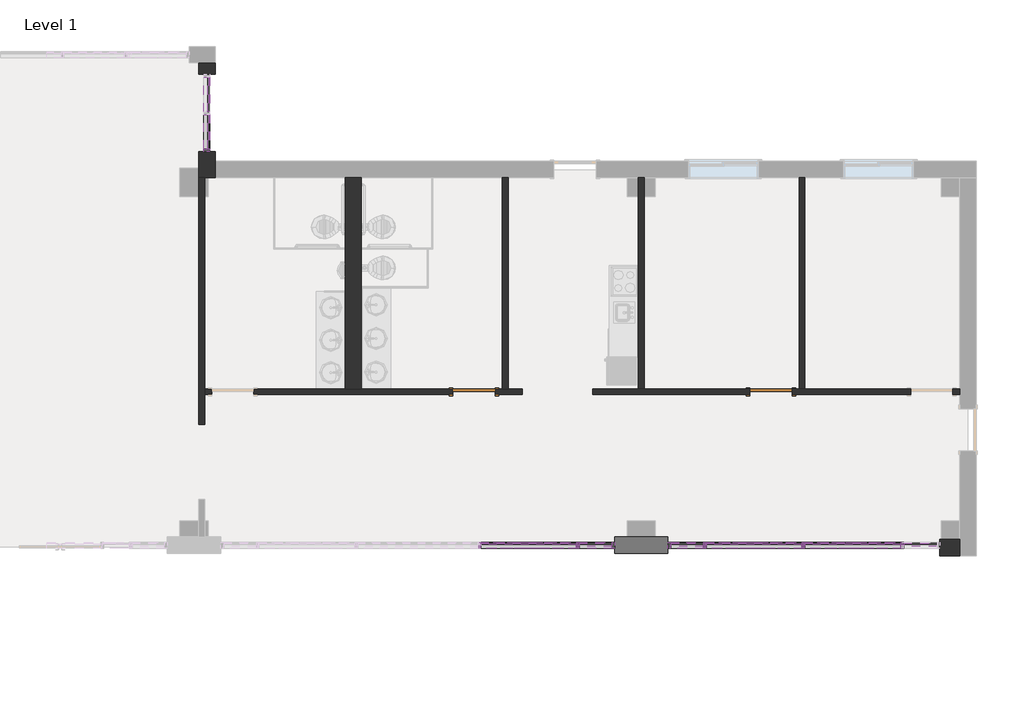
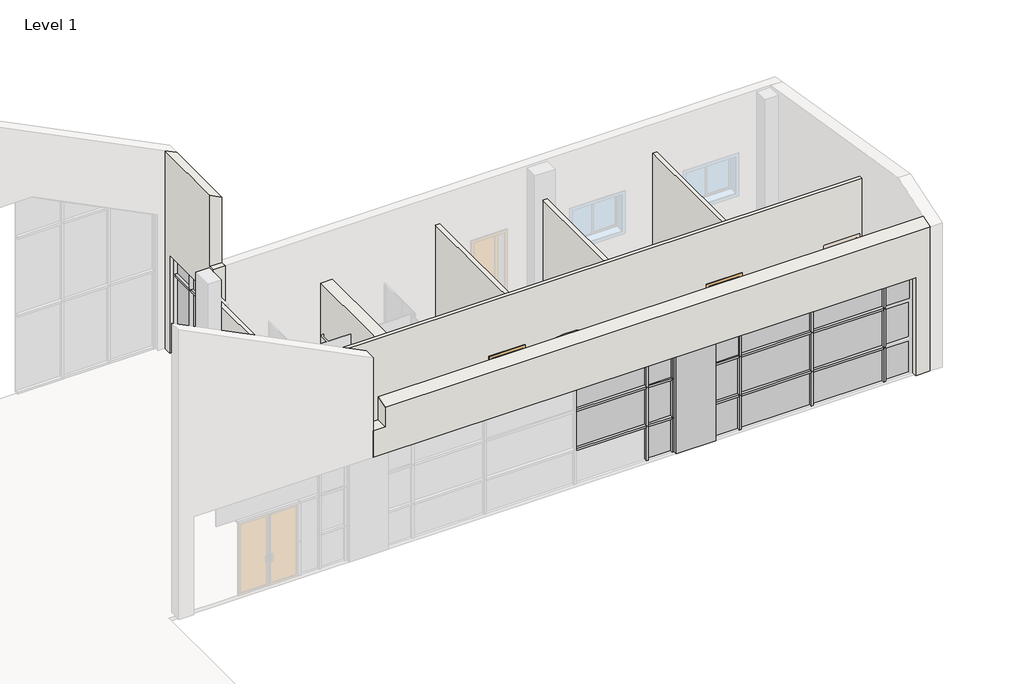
# One storey, part 3 of 4: 40 members, 22 plates, 8 walls, 2 doors.
"""IFC4 building model written with IfcOpenShell, lengths in millimetres."""

from ifc_helpers import new_model, si_unit, point, frame, origin, origin_with_axes, place, context, project, spatial, polyline, ellipse_curve, trimmed, outline, extrude, faceted_brep, transform, mapped, element, save
from ifc_brep_helpers import plane_surface, extruded_surface, advanced_brep
from components import door_88503111, member_ee409385, member_3a0a7659, member_7b995701, member_c7c5a8a0, member_4f1c84db, member_a715cb85, member_2b49869a, member_13dc6413, member_3374d9b6, member_e196a3dc, member_3ca69e07, system_panel_glazed_65d20654, system_panel_glazed_53b4157c, system_panel_glazed_7b5ce646, system_panel_glazed_93fe6fa7, system_panel_glazed_6ce5e085, system_panel_glazed_6c402c5f, system_panel_glazed_28aac04d, system_panel_glazed_49c46af5, system_panel_glazed_ef97d2b3, system_panel_solid_6039f36e, system_panel_solid_fb0cd2a2

model = new_model("IFC4")

# Units and contexts
model_context = context("Model", 3, world=origin())
ifc_project = project(units=[si_unit("LENGTHUNIT", "METRE", prefix="MILLI")], contexts=[model_context])

# Site, building, storey
site = spatial("IfcSite", under=ifc_project)
building = spatial("IfcBuilding", under=site)
storey = spatial("IfcBuildingStorey", under=building, Name="Level 1", Elevation=0.0)

# Doors
placement = place(None, origin())
door_shape = door_88503111(model_context)
element("IfcDoor", 1, ObjectType="Single-Flush : 36\" x 84\"", at=placement, inside=storey, context=model_context, shape_type="MappedRepresentation", body=[
    mapped(door_shape, transform((12714.8233448, 3496.4480424, 0.0), x_axis=(1.0, 0.0, 0.0), y_axis=(0.0, 1.0, 0.0), z_axis=(0.0, 0.0, 1.0))),
])
element("IfcDoor", 2, ObjectType="Single-Flush : 36\" x 84\"", at=placement, inside=storey, context=model_context, shape_type="MappedRepresentation", body=[
    mapped(door_shape, transform((6294.9733448, 3496.4480424, 0.0), x_axis=(1.0, 0.0, 0.0), y_axis=(0.0, 1.0, 0.0), z_axis=(0.0, 0.0, 1.0))),
])

# Members
member_shape = member_ee409385(model_context)
element("IfcMember", 3, ObjectType="Rectangular Mullion : 2.5\" x 5\" Rectangular", at=placement, inside=storey, context=model_context, shape_type="MappedRepresentation", body=[
    mapped(member_shape, transform((518.0608448, 8687.5730424, 0.0), x_axis=(0.0, -1.0, 0.0), y_axis=(-1.0, 0.0, 0.0), z_axis=(0.0, 0.0, -1.0))),
])
member_2_shape = member_3a0a7659(model_context)
element("IfcMember", 4, ObjectType="Rectangular Mullion : 2.5\" x 5\" Rectangular", at=placement, inside=storey, context=model_context, shape_type="MappedRepresentation", body=[
    mapped(member_2_shape, transform((518.0608448, 8751.0730424, 3060.0), x_axis=(0.0, 0.0, 1.0), y_axis=(-1.0, 0.0, 0.0), z_axis=(0.0, -1.0, 0.0))),
])
element("IfcMember", 5, ObjectType="Rectangular Mullion : 2.5\" x 5\" Rectangular", at=placement, inside=storey, context=model_context, shape_type="MappedRepresentation", body=[
    mapped(member_2_shape, transform((518.0608448, 9557.5230424, 3060.0), x_axis=(0.0, 0.0, 1.0), y_axis=(-1.0, 0.0, 0.0), z_axis=(0.0, -1.0, 0.0))),
])
element("IfcMember", 6, ObjectType="Rectangular Mullion : 2.5\" x 5\" Rectangular", at=placement, inside=storey, context=model_context, shape_type="MappedRepresentation", body=[
    mapped(member_2_shape, transform((518.0608448, 9494.0230424, 0.0), x_axis=(0.0, 0.0, -1.0), y_axis=(-1.0, 0.0, 0.0), z_axis=(0.0, 1.0, 0.0))),
])
member_3_shape = member_7b995701(model_context)
element("IfcMember", 7, ObjectType="Rectangular Mullion : 2.5\" x 5\" Rectangular", at=placement, inside=storey, context=model_context, shape_type="MappedRepresentation", body=[
    mapped(member_3_shape, transform((518.0608448, 9557.5230424, 2438.4), x_axis=(0.0, 0.0, 1.0), y_axis=(-1.0, 0.0, 0.0), z_axis=(0.0, -1.0, 0.0))),
])
element("IfcMember", 8, ObjectType="Rectangular Mullion : 2.5\" x 5\" Rectangular", at=placement, inside=storey, context=model_context, shape_type="MappedRepresentation", body=[
    mapped(member_3_shape, transform((518.0608448, 8751.0730424, 2438.4), x_axis=(0.0, 0.0, 1.0), y_axis=(-1.0, 0.0, 0.0), z_axis=(0.0, -1.0, 0.0))),
])
member_4_shape = member_c7c5a8a0(model_context)
element("IfcMember", 9, ObjectType="Rectangular Mullion : 2.5\" x 5\" Rectangular", at=placement, inside=storey, context=model_context, shape_type="MappedRepresentation", body=[
    mapped(member_4_shape, transform((11249.5608448, 175.3980424, 2286.0), x_axis=(0.0, 0.0, 1.0), y_axis=(0.0, -1.0, 0.0), z_axis=(1.0, 0.0, 0.0))),
])
element("IfcMember", 10, ObjectType="Rectangular Mullion : 2.5\" x 5\" Rectangular", at=placement, inside=storey, context=model_context, shape_type="MappedRepresentation", body=[
    mapped(member_4_shape, transform((9268.3608448, 175.3980424, 2286.0), x_axis=(0.0, 0.0, 1.0), y_axis=(0.0, -1.0, 0.0), z_axis=(1.0, 0.0, 0.0))),
])
element("IfcMember", 11, ObjectType="Rectangular Mullion : 2.5\" x 5\" Rectangular", at=placement, inside=storey, context=model_context, shape_type="MappedRepresentation", body=[
    mapped(member_4_shape, transform((11249.5608448, 175.3980424, 1066.8), x_axis=(0.0, 0.0, 1.0), y_axis=(0.0, -1.0, 0.0), z_axis=(1.0, 0.0, 0.0))),
])
element("IfcMember", 12, ObjectType="Rectangular Mullion : 2.5\" x 5\" Rectangular", at=placement, inside=storey, context=model_context, shape_type="MappedRepresentation", body=[
    mapped(member_4_shape, transform((9268.3608448, 175.3980424, 1066.8), x_axis=(0.0, 0.0, 1.0), y_axis=(0.0, -1.0, 0.0), z_axis=(1.0, 0.0, 0.0))),
])
member_5_shape = member_4f1c84db(model_context)
element("IfcMember", 13, ObjectType="Rectangular Mullion : 2.5\" x 5\" Rectangular", at=placement, inside=storey, context=model_context, shape_type="MappedRepresentation", body=[
    mapped(member_5_shape, transform((15516.7608448, 175.3980424, 2286.0), x_axis=(0.0, 0.0, 1.0), y_axis=(0.0, -1.0, 0.0), z_axis=(1.0, 0.0, 0.0))),
])
element("IfcMember", 14, ObjectType="Rectangular Mullion : 2.5\" x 5\" Rectangular", at=placement, inside=storey, context=model_context, shape_type="MappedRepresentation", body=[
    mapped(member_5_shape, transform((8506.3608448, 175.3980424, 2286.0), x_axis=(0.0, 0.0, 1.0), y_axis=(0.0, -1.0, 0.0), z_axis=(1.0, 0.0, 0.0))),
])
element("IfcMember", 15, ObjectType="Rectangular Mullion : 2.5\" x 5\" Rectangular", at=placement, inside=storey, context=model_context, shape_type="MappedRepresentation", body=[
    mapped(member_5_shape, transform((13383.1608448, 175.3980424, 2286.0), x_axis=(0.0, 0.0, 1.0), y_axis=(0.0, -1.0, 0.0), z_axis=(1.0, 0.0, 0.0))),
])
element("IfcMember", 16, ObjectType="Rectangular Mullion : 2.5\" x 5\" Rectangular", at=placement, inside=storey, context=model_context, shape_type="MappedRepresentation", body=[
    mapped(member_5_shape, transform((8506.3608448, 175.3980424, 1066.8), x_axis=(0.0, 0.0, 1.0), y_axis=(0.0, -1.0, 0.0), z_axis=(1.0, 0.0, 0.0))),
])
element("IfcMember", 17, ObjectType="Rectangular Mullion : 2.5\" x 5\" Rectangular", at=placement, inside=storey, context=model_context, shape_type="MappedRepresentation", body=[
    mapped(member_5_shape, transform((13383.1608448, 175.3980424, 1066.8), x_axis=(0.0, 0.0, 1.0), y_axis=(0.0, -1.0, 0.0), z_axis=(1.0, 0.0, 0.0))),
])
element("IfcMember", 18, ObjectType="Rectangular Mullion : 2.5\" x 5\" Rectangular", at=placement, inside=storey, context=model_context, shape_type="MappedRepresentation", body=[
    mapped(member_5_shape, transform((15516.7608448, 175.3980424, 1066.8), x_axis=(0.0, 0.0, 1.0), y_axis=(0.0, -1.0, 0.0), z_axis=(1.0, 0.0, 0.0))),
])
member_6_shape = member_a715cb85(model_context)
element("IfcMember", 19, ObjectType="Rectangular Mullion : 2.5\" x 5\" Rectangular", at=placement, inside=storey, context=model_context, shape_type="MappedRepresentation", body=[
    mapped(member_6_shape, transform((8538.1108448, 175.3980424, 0.0), x_axis=(1.0, 0.0, 0.0), y_axis=(0.0, -1.0, 0.0), z_axis=(0.0, 0.0, -1.0))),
])
element("IfcMember", 20, ObjectType="Rectangular Mullion : 2.5\" x 5\" Rectangular", at=placement, inside=storey, context=model_context, shape_type="MappedRepresentation", body=[
    mapped(member_6_shape, transform((9300.1108448, 175.3980424, 0.0), x_axis=(1.0, 0.0, 0.0), y_axis=(0.0, -1.0, 0.0), z_axis=(0.0, 0.0, -1.0))),
])
element("IfcMember", 21, ObjectType="Rectangular Mullion : 2.5\" x 5\" Rectangular", at=placement, inside=storey, context=model_context, shape_type="MappedRepresentation", body=[
    mapped(member_6_shape, transform((10519.3108448, 175.3980424, 0.0), x_axis=(1.0, 0.0, 0.0), y_axis=(0.0, -1.0, 0.0), z_axis=(0.0, 0.0, -1.0))),
])
element("IfcMember", 22, ObjectType="Rectangular Mullion : 2.5\" x 5\" Rectangular", at=placement, inside=storey, context=model_context, shape_type="MappedRepresentation", body=[
    mapped(member_6_shape, transform((11281.3108448, 175.3980424, 0.0), x_axis=(1.0, 0.0, 0.0), y_axis=(0.0, -1.0, 0.0), z_axis=(0.0, 0.0, -1.0))),
])
element("IfcMember", 23, ObjectType="Rectangular Mullion : 2.5\" x 5\" Rectangular", at=placement, inside=storey, context=model_context, shape_type="MappedRepresentation", body=[
    mapped(member_6_shape, transform((13414.9108448, 175.3980424, 0.0), x_axis=(1.0, 0.0, 0.0), y_axis=(0.0, -1.0, 0.0), z_axis=(0.0, 0.0, -1.0))),
])
element("IfcMember", 24, ObjectType="Rectangular Mullion : 2.5\" x 5\" Rectangular", at=placement, inside=storey, context=model_context, shape_type="MappedRepresentation", body=[
    mapped(member_6_shape, transform((15548.5108448, 175.3980424, 0.0), x_axis=(1.0, 0.0, 0.0), y_axis=(0.0, -1.0, 0.0), z_axis=(0.0, 0.0, -1.0))),
])
member_7_shape = member_2b49869a(model_context)
element("IfcMember", 25, ObjectType="Rectangular Mullion : 2.5\" x 5\" Rectangular", at=placement, inside=storey, context=model_context, shape_type="MappedRepresentation", body=[
    mapped(member_7_shape, transform((8538.1108448, 175.3980424, 1066.8), x_axis=(1.0, 0.0, 0.0), y_axis=(0.0, -1.0, 0.0), z_axis=(0.0, 0.0, -1.0))),
])
element("IfcMember", 26, ObjectType="Rectangular Mullion : 2.5\" x 5\" Rectangular", at=placement, inside=storey, context=model_context, shape_type="MappedRepresentation", body=[
    mapped(member_7_shape, transform((9300.1108448, 175.3980424, 1066.8), x_axis=(1.0, 0.0, 0.0), y_axis=(0.0, -1.0, 0.0), z_axis=(0.0, 0.0, -1.0))),
])
element("IfcMember", 27, ObjectType="Rectangular Mullion : 2.5\" x 5\" Rectangular", at=placement, inside=storey, context=model_context, shape_type="MappedRepresentation", body=[
    mapped(member_7_shape, transform((10519.3108448, 175.3980424, 1066.8), x_axis=(1.0, 0.0, 0.0), y_axis=(0.0, -1.0, 0.0), z_axis=(0.0, 0.0, -1.0))),
])
element("IfcMember", 28, ObjectType="Rectangular Mullion : 2.5\" x 5\" Rectangular", at=placement, inside=storey, context=model_context, shape_type="MappedRepresentation", body=[
    mapped(member_7_shape, transform((11281.3108448, 175.3980424, 1066.8), x_axis=(1.0, 0.0, 0.0), y_axis=(0.0, -1.0, 0.0), z_axis=(0.0, 0.0, -1.0))),
])
element("IfcMember", 29, ObjectType="Rectangular Mullion : 2.5\" x 5\" Rectangular", at=placement, inside=storey, context=model_context, shape_type="MappedRepresentation", body=[
    mapped(member_7_shape, transform((13414.9108448, 175.3980424, 1066.8), x_axis=(1.0, 0.0, 0.0), y_axis=(0.0, -1.0, 0.0), z_axis=(0.0, 0.0, -1.0))),
])
element("IfcMember", 30, ObjectType="Rectangular Mullion : 2.5\" x 5\" Rectangular", at=placement, inside=storey, context=model_context, shape_type="MappedRepresentation", body=[
    mapped(member_7_shape, transform((15548.5108448, 175.3980424, 1066.8), x_axis=(1.0, 0.0, 0.0), y_axis=(0.0, -1.0, 0.0), z_axis=(0.0, 0.0, -1.0))),
])
member_8_shape = member_13dc6413(model_context)
element("IfcMember", 31, ObjectType="Rectangular Mullion : 2.5\" x 5\" Rectangular", at=placement, inside=storey, context=model_context, shape_type="MappedRepresentation", body=[
    mapped(member_8_shape, transform((9331.8608448, 175.3980424, 3060.0), x_axis=(0.0, 0.0, 1.0), y_axis=(0.0, -1.0, 0.0), z_axis=(1.0, 0.0, 0.0))),
])
element("IfcMember", 32, ObjectType="Rectangular Mullion : 2.5\" x 5\" Rectangular", at=placement, inside=storey, context=model_context, shape_type="MappedRepresentation", body=[
    mapped(member_8_shape, transform((11281.3108448, 175.3980424, 3060.0), x_axis=(0.0, 0.0, 1.0), y_axis=(0.0, -1.0, 0.0), z_axis=(1.0, 0.0, 0.0))),
])
member_9_shape = member_3374d9b6(model_context)
element("IfcMember", 33, ObjectType="Rectangular Mullion : 2.5\" x 5\" Rectangular", at=placement, inside=storey, context=model_context, shape_type="MappedRepresentation", body=[
    mapped(member_9_shape, transform((15548.5108448, 175.3980424, 3060.0), x_axis=(0.0, 0.0, 1.0), y_axis=(0.0, -1.0, 0.0), z_axis=(1.0, 0.0, 0.0))),
])
element("IfcMember", 34, ObjectType="Rectangular Mullion : 2.5\" x 5\" Rectangular", at=placement, inside=storey, context=model_context, shape_type="MappedRepresentation", body=[
    mapped(member_9_shape, transform((13414.9108448, 175.3980424, 3060.0), x_axis=(0.0, 0.0, 1.0), y_axis=(0.0, -1.0, 0.0), z_axis=(1.0, 0.0, 0.0))),
])
element("IfcMember", 35, ObjectType="Rectangular Mullion : 2.5\" x 5\" Rectangular", at=placement, inside=storey, context=model_context, shape_type="MappedRepresentation", body=[
    mapped(member_9_shape, transform((8538.1108448, 175.3980424, 3060.0), x_axis=(0.0, 0.0, 1.0), y_axis=(0.0, -1.0, 0.0), z_axis=(1.0, 0.0, 0.0))),
])
member_10_shape = member_e196a3dc(model_context)
element("IfcMember", 36, ObjectType="Rectangular Mullion : 2.5\" x 5\" Rectangular", at=placement, inside=storey, context=model_context, shape_type="MappedRepresentation", body=[
    mapped(member_10_shape, transform((518.0608448, 8687.5730424, 2438.4), x_axis=(0.0, -1.0, 0.0), y_axis=(-1.0, 0.0, 0.0), z_axis=(0.0, 0.0, -1.0))),
])
member_11_shape = member_3ca69e07(model_context)
element("IfcMember", 37, ObjectType="Rectangular Mullion : 2.5\" x 5\" Rectangular", at=placement, inside=storey, context=model_context, shape_type="MappedRepresentation", body=[
    mapped(member_11_shape, transform((8538.1108448, 175.3980424, 2286.0), x_axis=(1.0, 0.0, 0.0), y_axis=(0.0, -1.0, 0.0), z_axis=(0.0, 0.0, -1.0))),
])
element("IfcMember", 38, ObjectType="Rectangular Mullion : 2.5\" x 5\" Rectangular", at=placement, inside=storey, context=model_context, shape_type="MappedRepresentation", body=[
    mapped(member_11_shape, transform((9300.1108448, 175.3980424, 2286.0), x_axis=(1.0, 0.0, 0.0), y_axis=(0.0, -1.0, 0.0), z_axis=(0.0, 0.0, -1.0))),
])
element("IfcMember", 39, ObjectType="Rectangular Mullion : 2.5\" x 5\" Rectangular", at=placement, inside=storey, context=model_context, shape_type="MappedRepresentation", body=[
    mapped(member_11_shape, transform((10519.3108448, 175.3980424, 2286.0), x_axis=(1.0, 0.0, 0.0), y_axis=(0.0, -1.0, 0.0), z_axis=(0.0, 0.0, -1.0))),
])
element("IfcMember", 40, ObjectType="Rectangular Mullion : 2.5\" x 5\" Rectangular", at=placement, inside=storey, context=model_context, shape_type="MappedRepresentation", body=[
    mapped(member_11_shape, transform((11281.3108448, 175.3980424, 2286.0), x_axis=(1.0, 0.0, 0.0), y_axis=(0.0, -1.0, 0.0), z_axis=(0.0, 0.0, -1.0))),
])
element("IfcMember", 41, ObjectType="Rectangular Mullion : 2.5\" x 5\" Rectangular", at=placement, inside=storey, context=model_context, shape_type="MappedRepresentation", body=[
    mapped(member_11_shape, transform((13414.9108448, 175.3980424, 2286.0), x_axis=(1.0, 0.0, 0.0), y_axis=(0.0, -1.0, 0.0), z_axis=(0.0, 0.0, -1.0))),
])
element("IfcMember", 42, ObjectType="Rectangular Mullion : 2.5\" x 5\" Rectangular", at=placement, inside=storey, context=model_context, shape_type="MappedRepresentation", body=[
    mapped(member_11_shape, transform((15548.5108448, 175.3980424, 2286.0), x_axis=(1.0, 0.0, 0.0), y_axis=(0.0, -1.0, 0.0), z_axis=(0.0, 0.0, -1.0))),
])

# Plates
element("IfcPlate", 43, ObjectType="Exterior - Brick on Mtl. Stud", at=placement, inside=storey, context=model_context, shape_type="Brep", body=[
    faceted_brep([(9331.8608448, -0.8144576, 0.0), (10487.5608448, -0.8144576, 0.0), (10487.5608448, -0.8144576, 3060.0), (9331.8608448, -0.8144576, 3060.0), (9331.8608448, 351.6105424, 0.0), (9331.8608448, 351.6105424, 3060.0), (9604.9108448, 351.6105424, 3060.0), (10214.5108448, 351.6105424, 3060.0), (10487.5608448, 351.6105424, 3060.0), (10487.5608448, 351.6105424, 0.0), (10214.5108448, 351.6105424, 0.0), (9604.9108448, 351.6105424, 0.0)], [[[0, 1, 2, 3]], [[4, 5, 6, 7, 8, 9, 10, 11]], [[1, 0, 4, 11, 10, 9]], [[2, 1, 9, 8]], [[3, 2, 8, 7, 6, 5]], [[0, 3, 5, 4]]]),
])
system_panel_glazed_shape = system_panel_glazed_65d20654(model_context)
element("IfcPlate", 44, ObjectType="System Panel : Glazed", at=placement, inside=storey, context=model_context, shape_type="MappedRepresentation", body=[
    mapped(system_panel_glazed_shape, transform((518.0608448, 9928.9980424, 63.5), x_axis=(0.0, -1.0, 0.0), y_axis=(1.0, 0.0, 0.0), z_axis=(0.0, 0.0, 1.0))),
])
element("IfcPlate", 45, ObjectType="System Panel : Glazed", at=placement, inside=storey, context=model_context, shape_type="MappedRepresentation", body=[
    mapped(system_panel_glazed_shape, transform((518.0608448, 9122.5480424, 63.5), x_axis=(0.0, -1.0, 0.0), y_axis=(1.0, 0.0, 0.0), z_axis=(0.0, 0.0, 1.0))),
])
system_panel_glazed_2_shape = system_panel_glazed_53b4157c(model_context)
element("IfcPlate", 46, ObjectType="System Panel : Glazed", at=placement, inside=storey, context=model_context, shape_type="MappedRepresentation", body=[
    mapped(system_panel_glazed_2_shape, transform((10900.3108448, 175.3980424, 0.0), x_axis=(1.0, 0.0, 0.0), y_axis=(0.0, 1.0, 0.0), z_axis=(0.0, 0.0, 1.0))),
])
element("IfcPlate", 47, ObjectType="System Panel : Glazed", at=placement, inside=storey, context=model_context, shape_type="MappedRepresentation", body=[
    mapped(system_panel_glazed_2_shape, transform((8919.1108448, 175.3980424, 0.0), x_axis=(1.0, 0.0, 0.0), y_axis=(0.0, 1.0, 0.0), z_axis=(0.0, 0.0, 1.0))),
])
system_panel_glazed_3_shape = system_panel_glazed_7b5ce646(model_context)
element("IfcPlate", 48, ObjectType="System Panel : Glazed", at=placement, inside=storey, context=model_context, shape_type="MappedRepresentation", body=[
    mapped(system_panel_glazed_3_shape, transform((10900.3108448, 175.3980424, 1098.55), x_axis=(1.0, 0.0, 0.0), y_axis=(0.0, 1.0, 0.0), z_axis=(0.0, 0.0, 1.0))),
])
element("IfcPlate", 49, ObjectType="System Panel : Glazed", at=placement, inside=storey, context=model_context, shape_type="MappedRepresentation", body=[
    mapped(system_panel_glazed_3_shape, transform((8919.1108448, 175.3980424, 1098.55), x_axis=(1.0, 0.0, 0.0), y_axis=(0.0, 1.0, 0.0), z_axis=(0.0, 0.0, 1.0))),
])
system_panel_glazed_4_shape = system_panel_glazed_93fe6fa7(model_context)
element("IfcPlate", 50, ObjectType="System Panel : Glazed", at=placement, inside=storey, context=model_context, shape_type="MappedRepresentation", body=[
    mapped(system_panel_glazed_4_shape, transform((12348.1108448, 175.3980424, 0.0), x_axis=(1.0, 0.0, 0.0), y_axis=(0.0, 1.0, 0.0), z_axis=(0.0, 0.0, 1.0))),
])
element("IfcPlate", 51, ObjectType="System Panel : Glazed", at=placement, inside=storey, context=model_context, shape_type="MappedRepresentation", body=[
    mapped(system_panel_glazed_4_shape, transform((14481.7108448, 175.3980424, 0.0), x_axis=(1.0, 0.0, 0.0), y_axis=(0.0, 1.0, 0.0), z_axis=(0.0, 0.0, 1.0))),
])
system_panel_glazed_5_shape = system_panel_glazed_6ce5e085(model_context)
element("IfcPlate", 52, ObjectType="System Panel : Glazed", at=placement, inside=storey, context=model_context, shape_type="MappedRepresentation", body=[
    mapped(system_panel_glazed_5_shape, transform((12348.1108448, 175.3980424, 1098.55), x_axis=(1.0, 0.0, 0.0), y_axis=(0.0, 1.0, 0.0), z_axis=(0.0, 0.0, 1.0))),
])
element("IfcPlate", 53, ObjectType="System Panel : Glazed", at=placement, inside=storey, context=model_context, shape_type="MappedRepresentation", body=[
    mapped(system_panel_glazed_5_shape, transform((7471.3108448, 175.3980424, 1098.55), x_axis=(1.0, 0.0, 0.0), y_axis=(0.0, 1.0, 0.0), z_axis=(0.0, 0.0, 1.0))),
])
element("IfcPlate", 54, ObjectType="System Panel : Glazed", at=placement, inside=storey, context=model_context, shape_type="MappedRepresentation", body=[
    mapped(system_panel_glazed_5_shape, transform((14481.7108448, 175.3980424, 1098.55), x_axis=(1.0, 0.0, 0.0), y_axis=(0.0, 1.0, 0.0), z_axis=(0.0, 0.0, 1.0))),
])
system_panel_glazed_6_shape = system_panel_glazed_6c402c5f(model_context)
element("IfcPlate", 55, ObjectType="System Panel : Glazed", at=placement, inside=storey, context=model_context, shape_type="MappedRepresentation", body=[
    mapped(system_panel_glazed_6_shape, transform((15942.2108448, 175.3980424, 0.0), x_axis=(1.0, 0.0, 0.0), y_axis=(0.0, 1.0, 0.0), z_axis=(0.0, 0.0, 1.0))),
])
system_panel_glazed_7_shape = system_panel_glazed_28aac04d(model_context)
element("IfcPlate", 56, ObjectType="System Panel : Glazed", at=placement, inside=storey, context=model_context, shape_type="MappedRepresentation", body=[
    mapped(system_panel_glazed_7_shape, transform((15942.2108448, 175.3980424, 1098.55), x_axis=(1.0, 0.0, 0.0), y_axis=(0.0, 1.0, 0.0), z_axis=(0.0, 0.0, 1.0))),
])
system_panel_glazed_8_shape = system_panel_glazed_49c46af5(model_context)
element("IfcPlate", 57, ObjectType="System Panel : Glazed", at=placement, inside=storey, context=model_context, shape_type="MappedRepresentation", body=[
    mapped(system_panel_glazed_8_shape, transform((518.0608448, 9928.9980424, 2470.15), x_axis=(0.0, -1.0, 0.0), y_axis=(1.0, 0.0, 0.0), z_axis=(0.0, 0.0, 1.0))),
])
element("IfcPlate", 58, ObjectType="System Panel : Glazed", at=placement, inside=storey, context=model_context, shape_type="MappedRepresentation", body=[
    mapped(system_panel_glazed_8_shape, transform((518.0608448, 9122.5480424, 2470.15), x_axis=(0.0, -1.0, 0.0), y_axis=(1.0, 0.0, 0.0), z_axis=(0.0, 0.0, 1.0))),
])
system_panel_glazed_9_shape = system_panel_glazed_ef97d2b3(model_context)
element("IfcPlate", 59, ObjectType="System Panel : Glazed", at=placement, inside=storey, context=model_context, shape_type="MappedRepresentation", body=[
    mapped(system_panel_glazed_9_shape, transform((12348.1108448, 175.3980424, 2317.75), x_axis=(1.0, 0.0, 0.0), y_axis=(0.0, 1.0, 0.0), z_axis=(0.0, 0.0, 1.0))),
])
element("IfcPlate", 60, ObjectType="System Panel : Glazed", at=placement, inside=storey, context=model_context, shape_type="MappedRepresentation", body=[
    mapped(system_panel_glazed_9_shape, transform((7471.3108448, 175.3980424, 2317.75), x_axis=(1.0, 0.0, 0.0), y_axis=(0.0, 1.0, 0.0), z_axis=(0.0, 0.0, 1.0))),
])
element("IfcPlate", 61, ObjectType="System Panel : Glazed", at=placement, inside=storey, context=model_context, shape_type="MappedRepresentation", body=[
    mapped(system_panel_glazed_9_shape, transform((14481.7108448, 175.3980424, 2317.75), x_axis=(1.0, 0.0, 0.0), y_axis=(0.0, 1.0, 0.0), z_axis=(0.0, 0.0, 1.0))),
])
system_panel_solid_shape = system_panel_solid_6039f36e(model_context)
element("IfcPlate", 62, ObjectType="System Panel : Solid", at=placement, inside=storey, context=model_context, shape_type="MappedRepresentation", body=[
    mapped(system_panel_solid_shape, transform((10900.3108448, 175.3980424, 2317.75), x_axis=(1.0, 0.0, 0.0), y_axis=(0.0, 1.0, 0.0), z_axis=(0.0, 0.0, 1.0))),
])
element("IfcPlate", 63, ObjectType="System Panel : Solid", at=placement, inside=storey, context=model_context, shape_type="MappedRepresentation", body=[
    mapped(system_panel_solid_shape, transform((8919.1108448, 175.3980424, 2317.75), x_axis=(1.0, 0.0, 0.0), y_axis=(0.0, 1.0, 0.0), z_axis=(0.0, 0.0, 1.0))),
])
system_panel_solid_2_shape = system_panel_solid_fb0cd2a2(model_context)
element("IfcPlate", 64, ObjectType="System Panel : Solid", at=placement, inside=storey, context=model_context, shape_type="MappedRepresentation", body=[
    mapped(system_panel_solid_2_shape, transform((15942.2108448, 175.3980424, 2317.75), x_axis=(1.0, 0.0, 0.0), y_axis=(0.0, 1.0, 0.0), z_axis=(0.0, 0.0, 1.0))),
])

# Walls
element("IfcWall", 65, ObjectType="Exterior - Brick on Mtl. Stud", at=placement, inside=storey, context=model_context, shape_type="Brep", body=[
    faceted_brep([(341.8483448, 8306.5730424, 6182.55), (341.8483448, 10614.7980424, 6182.55), (341.8483448, 10614.7980424, 0.0), (341.8483448, 10363.9730424, 0.0), (341.8483448, 10363.9730424, 3060.0), (341.8483448, 8687.5730424, 3060.0), (341.8483448, 8687.5730424, 0.0), (341.8483448, 8333.5605424, 0.0), (341.8483448, 8130.3605424, 0.0), (341.8483448, 8130.3605424, 3060.0), (341.8483448, 8130.3605424, 3958.7375), (341.8483448, 8306.5730424, 3958.7375), (694.2733448, 10614.7980424, 6006.3375), (694.2733448, 8306.5730424, 6006.3375), (694.2733448, 8306.5730424, 3958.7375), (694.2733448, 8130.3605424, 3958.7375), (694.2733448, 8130.3605424, 3060.0), (694.2733448, 8130.3605424, 0.0), (694.2733448, 8482.7855424, 0.0), (694.2733448, 8687.5730424, 0.0), (694.2733448, 8687.5730424, 3060.0), (694.2733448, 10363.9730424, 3060.0), (694.2733448, 10363.9730424, 0.0), (694.2733448, 10614.7980424, 0.0), (545.0483448, 8130.3605424, 0.0), (465.6733448, 8130.3605424, 0.0)], [[[0, 1, 2, 3, 4, 5, 6, 7, 8, 9, 10, 11]], [[12, 13, 14, 15, 16, 17, 18, 19, 20, 21, 22, 23]], [[2, 23, 22, 3]], [[17, 24, 25, 8, 7, 6, 19, 18]], [[1, 0, 13, 12]], [[13, 0, 11, 14]], [[14, 11, 10, 15]], [[8, 25, 24, 17, 16, 15, 10, 9]], [[2, 1, 12, 23]], [[21, 4, 3, 22]], [[4, 21, 20, 5]], [[5, 20, 19, 6]]]),
])
element("IfcWall", 66, ObjectType="Exterior - Brick on Mtl. Stud", at=placement, inside=storey, context=model_context, shape_type="Brep", body=[
    faceted_brep([(341.8483448, 300.8105424, 3900.0), (694.2733448, 300.8105424, 3900.0), (694.2733448, 300.8105424, 4627.075), (16801.0483448, 300.8105424, 4627.075), (16801.0483448, 300.8105424, 3900.0), (16801.0483448, 300.8105424, 0.0), (16394.6483448, 300.8105424, 0.0), (16367.6608448, 300.8105424, 0.0), (16367.6608448, 300.8105424, 3060.0), (694.2733448, 300.8105424, 3060.0), (341.8483448, 300.8105424, 3060.0), (694.2733448, -51.6144576, 3900.0), (341.8483448, -51.6144576, 3900.0), (341.8483448, -51.6144576, 3060.0), (16367.6608448, -51.6144576, 3060.0), (16367.6608448, -51.6144576, 0.0), (16801.0483448, -51.6144576, 0.0), (16801.0483448, -51.6144576, 4509.6), (694.2733448, -51.6144576, 4509.6)], [[[0, 1, 2, 3, 4, 5, 6, 7, 8, 9, 10]], [[11, 12, 13, 14, 15, 16, 17, 18]], [[5, 16, 15, 7, 6]], [[1, 0, 12, 11]], [[1, 11, 18, 2]], [[3, 2, 18, 17]], [[8, 14, 13, 10, 9]], [[0, 10, 13, 12]], [[5, 4, 3, 17, 16]], [[14, 8, 7, 15]]]),
])
element("IfcWall", 67, ObjectType="Interior - 4 7/8\" Partition (1-hr)", at=placement, inside=storey, context=model_context, shape_type="AdvancedBrep", body=[
    advanced_brep(
    [(8857.1983448, 3434.5355424, 1828.8), (8857.1983448, 3434.5355424, 0.0), (12257.6233448, 3434.5355424, 0.0), (12257.6233448, 3434.5355424, 2133.6), (13172.0233448, 3434.5355424, 2133.6), (13172.0233448, 3434.5355424, 0.0), (15734.2483448, 3434.5355424, 0.0), (15734.2483448, 3434.5355424, 2133.6), (16648.6483448, 3434.5355424, 2133.6), (16648.6483448, 3434.5355424, 0.0), (16801.0483448, 3434.5355424, 0.0), (16801.0483448, 3434.5355424, 3900.0), (694.2733448, 3434.5355424, 3900.0), (694.2733448, 3434.5355424, 3060.0), (465.6733448, 3434.5355424, 3060.0), (465.6733448, 3434.5355424, 0.0), (618.0733448, 3434.5355424, 0.0), (618.0733448, 3434.5355424, 2133.6), (1532.4733448, 3434.5355424, 2133.6), (1532.4733448, 3434.5355424, 0.0), (5837.7733448, 3434.5355424, 0.0), (5837.7733448, 3434.5355424, 2133.6), (6752.1733448, 3434.5355424, 2133.6), (6752.1733448, 3434.5355424, 0.0), (7333.1983448, 3434.5355424, 0.0), (7333.1983448, 3434.5355424, 1828.8), (12257.6233448, 3558.3605424, 0.0), (9971.6233448, 3558.3605424, 0.0), (9847.7983448, 3558.3605424, 0.0), (8857.1983448, 3558.3605424, 0.0), (8857.1983448, 3558.3605424, 1828.8), (7333.1983448, 3558.3605424, 1828.8), (7333.1983448, 3558.3605424, 0.0), (7028.3983448, 3558.3605424, 0.0), (6904.5733448, 3558.3605424, 0.0), (6752.1733448, 3558.3605424, 0.0), (6752.1733448, 3558.3605424, 2133.6), (5837.7733448, 3558.3605424, 2133.6), (5837.7733448, 3558.3605424, 0.0), (3856.5733448, 3558.3605424, 0.0), (3513.6733448, 3558.3605424, 0.0), (1532.4733448, 3558.3605424, 0.0), (1532.4733448, 3558.3605424, 2133.6), (618.0733448, 3558.3605424, 2133.6), (618.0733448, 3558.3605424, 0.0), (465.6733448, 3558.3605424, 0.0), (465.6733448, 3558.3605424, 3060.0), (694.2733448, 3558.3605424, 3060.0), (694.2733448, 3558.3605424, 3900.0), (16801.0483448, 3558.3605424, 3900.0), (16801.0483448, 3558.3605424, 0.0), (16648.6483448, 3558.3605424, 0.0), (16648.6483448, 3558.3605424, 2133.6), (15734.2483448, 3558.3605424, 2133.6), (15734.2483448, 3558.3605424, 0.0), (13448.2483448, 3558.3605424, 0.0), (13324.4233448, 3558.3605424, 0.0), (13172.0233448, 3558.3605424, 0.0), (13172.0233448, 3558.3605424, 2133.6), (12257.6233448, 3558.3605424, 2133.6)],
    [
        (0, 1),
        (1, 2),
        (2, 3),
        (3, 4),
        (4, 5),
        (5, 6),
        (6, 7),
        (7, 8),
        (8, 9),
        (9, 10),
        (10, 11),
        (11, 12),
        (12, 13),
        (13, 14),
        (14, 15),
        (15, 16),
        (16, 17),
        (17, 18),
        (18, 19),
        (19, 20),
        (20, 21),
        (21, 22),
        (22, 23),
        (23, 24),
        (24, 25),
        (25, 0, ellipse_curve(frame((8095.1983448, 3434.5355424, 1828.8), z_axis=(0.0, 1.0, 0.0), x_axis=(1.0, 0.0, 0.0)), 762.0, 304.8)),
        (26, 27),
        (27, 28),
        (28, 29),
        (29, 30),
        (30, 31, ellipse_curve(frame((8095.1983448, 3558.3605424, 1828.8), z_axis=(0.0, -1.0, 0.0), x_axis=(1.0, 0.0, 0.0)), 762.0, 304.8)),
        (31, 32),
        (32, 33),
        (33, 34),
        (34, 35),
        (35, 36),
        (36, 37),
        (37, 38),
        (38, 39),
        (39, 40),
        (40, 41),
        (41, 42),
        (42, 43),
        (43, 44),
        (44, 45),
        (45, 46),
        (46, 47),
        (47, 48),
        (48, 49),
        (49, 50),
        (50, 51),
        (51, 52),
        (52, 53),
        (53, 54),
        (54, 55),
        (55, 56),
        (56, 57),
        (57, 58),
        (58, 59),
        (59, 26),
        (9, 51),
        (50, 10),
        (5, 57),
        (54, 6),
        (44, 16),
        (15, 45),
        (38, 20),
        (19, 41),
        (23, 35),
        (32, 24),
        (1, 29),
        (26, 2),
        (11, 49),
        (48, 12),
        (8, 52),
        (7, 53),
        (4, 58),
        (3, 59),
        (22, 36),
        (21, 37),
        (43, 17),
        (42, 18),
        (30, 0),
        (25, 31),
        (13, 47),
        (46, 14),
    ],
    [
        plane_surface(frame((2521.2785775, 3434.5355424, 0.0), z_axis=(0.0, -1.0, 0.0), x_axis=(1.0, 0.0, 0.0))),
        plane_surface(frame((2521.2785775, 3558.3605424, 0.0), z_axis=(0.0, 1.0, 0.0), x_axis=(-1.0, 0.0, 0.0))),
        plane_surface(frame((403.7608448, 3434.5355424, 0.0), z_axis=(0.0, 0.0, -1.0), x_axis=(0.0, 1.0, 0.0))),
        plane_surface(frame((16977.2608448, 3434.5355424, 3900.0), z_axis=(0.0, 0.0, 1.0), x_axis=(0.0, 1.0, 0.0))),
        plane_surface(frame((16648.6483448, 3558.3605424, 0.0), z_axis=(-1.0, 0.0, 0.0), x_axis=(0.0, -1.0, 0.0))),
        plane_surface(frame((16648.6483448, 3558.3605424, 2133.6), z_axis=(0.0, 0.0, -1.0), x_axis=(0.0, -1.0, 0.0))),
        plane_surface(frame((15734.2483448, 3558.3605424, 2133.6), z_axis=(1.0, 0.0, 0.0), x_axis=(0.0, -1.0, 0.0))),
        plane_surface(frame((13172.0233448, 3558.3605424, 0.0), z_axis=(-1.0, 0.0, 0.0), x_axis=(0.0, -1.0, 0.0))),
        plane_surface(frame((13172.0233448, 3558.3605424, 2133.6), z_axis=(0.0, 0.0, -1.0), x_axis=(0.0, -1.0, 0.0))),
        plane_surface(frame((12257.6233448, 3558.3605424, 2133.6), z_axis=(1.0, 0.0, 0.0), x_axis=(0.0, -1.0, 0.0))),
        plane_surface(frame((6752.1733448, 3558.3605424, 0.0), z_axis=(-1.0, 0.0, 0.0), x_axis=(0.0, -1.0, 0.0))),
        plane_surface(frame((6752.1733448, 3558.3605424, 2133.6), z_axis=(0.0, 0.0, -1.0), x_axis=(0.0, -1.0, 0.0))),
        plane_surface(frame((5837.7733448, 3558.3605424, 2133.6), z_axis=(1.0, 0.0, 0.0), x_axis=(0.0, -1.0, 0.0))),
        plane_surface(frame((618.0733448, 3434.5355424, 0.0), z_axis=(1.0, 0.0, 0.0), x_axis=(0.0, 1.0, 0.0))),
        plane_surface(frame((618.0733448, 3434.5355424, 2133.6), z_axis=(0.0, 0.0, -1.0), x_axis=(0.0, 1.0, 0.0))),
        plane_surface(frame((1532.4733448, 3434.5355424, 2133.6), z_axis=(-1.0, 0.0, 0.0), x_axis=(0.0, 1.0, 0.0))),
        extruded_surface(trimmed(ellipse_curve(frame((8095.1983448, 3310.7105424, 1828.8), z_axis=(0.0, -1.0, 0.0), x_axis=(1.0, 0.0, 0.0)), 762.0, 304.8), [point((8857.1983448, 3310.7105424, 1828.8))], [point((7333.1983448, 3310.7105424, 1828.8))], True, "CARTESIAN"), (0.0, 123.82499999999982, 0.0), 123.82499999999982),
        plane_surface(frame((7333.1983448, 3558.3605424, 1828.8), z_axis=(1.0, 0.0, 0.0), x_axis=(0.0, -1.0, 0.0))),
        plane_surface(frame((8857.1983448, 3558.3605424, 0.0), z_axis=(-1.0, 0.0, 0.0), x_axis=(0.0, -1.0, 0.0))),
        plane_surface(frame((403.7608448, 3434.5355424, 3060.0), z_axis=(0.0, 0.0, 1.0), x_axis=(1.0, 0.0, 0.0))),
        plane_surface(frame((465.6733448, 8306.5730424, 0.0), z_axis=(-1.0, 0.0, 0.0), x_axis=(0.0, 1.0, 0.0))),
        plane_surface(frame((694.2733448, 8306.5730424, 3060.0), z_axis=(-1.0, 0.0, 0.0), x_axis=(0.0, 1.0, 0.0))),
        plane_surface(frame((16801.0483448, 7181.0355424, 0.0), z_axis=(1.0, 0.0, 0.0), x_axis=(0.0, -1.0, 0.0))),
    ],
    [
        (0, [[1, 2, 3, 4, 5, 6, 7, 8, 9, 10, 11, 12, 13, 14, 15, 16, 17, 18, 19, 20, 21, 22, 23, 24, 25, 26]]),
        (1, [[27, 28, 29, 30, 31, 32, 33, 34, 35, 36, 37, 38, 39, 40, 41, 42, 43, 44, 45, 46, 47, 48, 49, 50, 51, 52, 53, 54, 55, 56, 57, 58, 59, 60]]),
        (2, [[-10, 61, -51, 62]]),
        (2, [[-6, 63, -57, -56, -55, 64]]),
        (2, [[-45, 65, -16, 66]]),
        (2, [[-41, -40, -39, 67, -20, 68]]),
        (2, [[-24, 69, -35, -34, -33, 70]]),
        (2, [[-2, 71, -29, -28, -27, 72]]),
        (3, [[-12, 73, -49, 74]]),
        (4, [[-52, -61, -9, 75]]),
        (5, [[-53, -75, -8, 76]]),
        (6, [[-54, -76, -7, -64]]),
        (7, [[-58, -63, -5, 77]]),
        (8, [[-59, -77, -4, 78]]),
        (9, [[-60, -78, -3, -72]]),
        (10, [[-36, -69, -23, 79]]),
        (11, [[-37, -79, -22, 80]]),
        (12, [[-38, -80, -21, -67]]),
        (13, [[-17, -65, -44, 81]]),
        (14, [[-18, -81, -43, 82]]),
        (15, [[-19, -82, -42, -68]]),
        (16, [[-31, 83, -26, 84]]),
        (17, [[-32, -84, -25, -70]]),
        (18, [[-30, -71, -1, -83]]),
        (19, [[85, -47, 86, -14]]),
        (20, [[-15, -86, -46, -66]]),
        (21, [[-13, -74, -48, -85]]),
        (22, [[-11, -62, -50, -73]]),
    ],
),
])
element("IfcWall", 68, ObjectType="Interior - 4 7/8\" Partition (1-hr)", at=placement, inside=storey, context=model_context, shape_type="SweptSolid", body=[
    extrude(outline(polyline([(6904.5733448, 3558.3605424), (6904.5733448, 8130.3605424), (7028.3983448, 8130.3605424), (7028.3983448, 3558.3605424), (6904.5733448, 3558.3605424)])), origin_with_axes(), (0.0, 0.0, 1.0), 3060.0),
])
element("IfcWall", 69, ObjectType="Interior - 4 7/8\" Partition (1-hr)", at=placement, inside=storey, context=model_context, shape_type="Brep", body=[
    faceted_brep([(341.8483448, 8130.3605424, 0.0), (341.8483448, 7723.9605424, 0.0), (341.8483448, 2791.5980424, 0.0), (341.8483448, 2791.5980424, 3060.0), (341.8483448, 8130.3605424, 3060.0), (465.6733448, 8130.3605424, 0.0), (465.6733448, 8130.3605424, 3060.0), (465.6733448, 7723.9605424, 3060.0), (465.6733448, 3558.3605424, 3060.0), (465.6733448, 3434.5355424, 3060.0), (465.6733448, 2791.5980424, 3060.0), (465.6733448, 2791.5980424, 0.0), (465.6733448, 3434.5355424, 0.0), (465.6733448, 3558.3605424, 0.0), (465.6733448, 7723.9605424, 0.0)], [[[0, 1, 2, 3, 4]], [[5, 6, 7, 8, 9, 10, 11, 12, 13, 14]], [[2, 1, 0, 5, 14, 13, 12, 11]], [[3, 2, 11, 10]], [[4, 3, 10, 9, 8, 7, 6]], [[0, 4, 6, 5]]]),
])
element("IfcWall", 70, ObjectType="Interior - 4 7/8\" Partition (1-hr)", at=placement, inside=storey, context=model_context, shape_type="Brep", body=[
    faceted_brep([(9847.7983448, 8130.3605424, 0.0), (9847.7983448, 7723.9605424, 0.0), (9847.7983448, 3558.3605424, 0.0), (9847.7983448, 3558.3605424, 3060.0), (9847.7983448, 7723.9605424, 3060.0), (9847.7983448, 8130.3605424, 3060.0), (9971.6233448, 8130.3605424, 0.0), (9971.6233448, 8130.3605424, 3060.0), (9971.6233448, 7723.9605424, 3060.0), (9971.6233448, 3558.3605424, 3060.0), (9971.6233448, 3558.3605424, 0.0), (9971.6233448, 7723.9605424, 0.0)], [[[0, 1, 2, 3, 4, 5]], [[6, 7, 8, 9, 10, 11]], [[2, 1, 0, 6, 11, 10]], [[5, 4, 3, 9, 8, 7]], [[3, 2, 10, 9]], [[0, 5, 7, 6]]]),
])
element("IfcWall", 71, ObjectType="Interior - 4 7/8\" Partition (1-hr)", at=placement, inside=storey, context=model_context, shape_type="SweptSolid", body=[
    extrude(outline(polyline([(13324.4233448, 3558.3605424), (13324.4233448, 8130.3605424), (13448.2483448, 8130.3605424), (13448.2483448, 3558.3605424), (13324.4233448, 3558.3605424)])), origin_with_axes(), (0.0, 0.0, 1.0), 3060.0),
])
element("IfcWall", 72, ObjectType="Plumbing Wall", at=placement, inside=storey, context=model_context, shape_type="SweptSolid", body=[
    extrude(outline(polyline([(3513.6733448, 3558.3605424), (3513.6733448, 8130.3605424), (3856.5733448, 8130.3605424), (3856.5733448, 3558.3605424), (3513.6733448, 3558.3605424)])), origin_with_axes(), (0.0, 0.0, 1.0), 2438.4),
])

save(model, "model.ifc")
